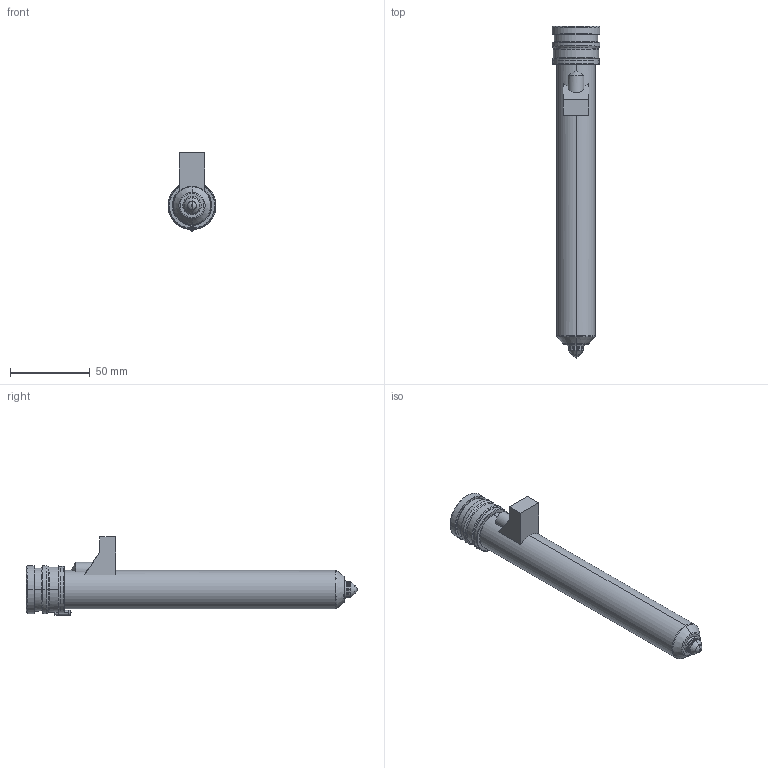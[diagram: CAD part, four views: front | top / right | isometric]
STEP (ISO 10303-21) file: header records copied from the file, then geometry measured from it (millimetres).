
FILE_DESCRIPTION((''),'2;1');
FILE_NAME('MPN-10-29-VX10-186-M','2026-02-05T12:57:54',('UPTIO'),('Thermoplay S.p.A.'),'CREO PARAMETRIC BY PTC INC, 2023494','CREO PARAMETRIC BY PTC INC, 2023494','');
FILE_SCHEMA(('CONFIG_CONTROL_DESIGN','SHAPE_APPEARANCE_LAYERS_GROUPS'));
Length unit declared in the file: millimetre
Products named in the file (1): MPN-10-29-VX10-186-M
Bounding box: 30 x 207.5 x 49 mm (x, y, z)
Volume: 63961.5 mm3; surface area: 65901.8 mm2
Topology: 3 solids, 5 shells, 547 faces, 1387 edges, 846 vertices
Faces by surface type: cylinder 179, plane 147, torus 71, bspline 70, cone 68, sphere 8, extrusion 4
Entity records: 28722 total; most frequent: CARTESIAN_POINT 12757, ORIENTED_EDGE 2760, DIRECTION 2638, EDGE_CURVE 1380, AXIS2_PLACEMENT_3D 1050, VERTEX_POINT 846, EDGE_LOOP 576, CIRCLE 576
